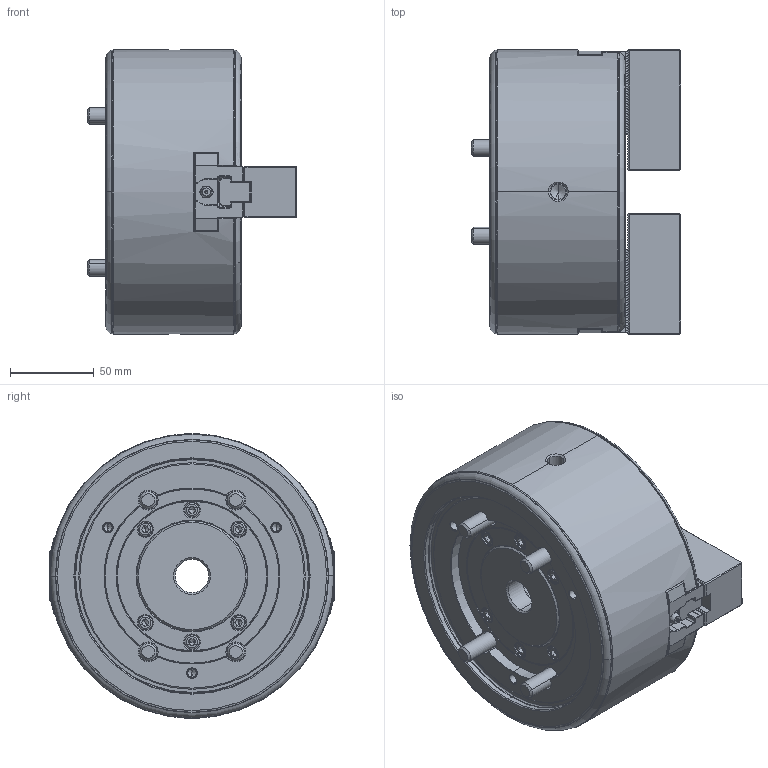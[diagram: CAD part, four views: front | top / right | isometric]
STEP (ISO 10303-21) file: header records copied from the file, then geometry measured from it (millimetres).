
FILE_DESCRIPTION (( 'STEP AP214' ), '1' );
FILE_NAME ('DEV-BRT06-HCL.STEP', '2024-10-02T05:10:50', ( '' ), ( '' ), 'SwSTEP 2.0', 'SolidWorks 2022', '' );
FILE_SCHEMA (( 'AUTOMOTIVE_DESIGN' ));
Length unit declared in the file: millimetre
Products named in the file (9): Bアナツキ M10×80; BRT06-Nishi07 ドローナット(ｸﾘｯｸｽﾄｯﾌﾟ穴変更)_ﾃﾞﾌｫﾙﾄ(外観用); BR06-Nishi08 Tナット-Plus_61P447483-改正2 BB206 Tﾅｯﾄ-分割; Part8^DEV-BRT06-クミタテ; DEV-BRT06-HCL; Bアナツキ M10×25; 61P806148-0(BBT206) カバー_BBT206-ﾃﾞﾌｫﾙﾄ; BRT06-61P314547-4(SJ06A1T) ソフトジョー_SJ06A1T-ﾃﾞﾌｫﾙﾄ-Design; Bアナツキボタン M5×10_デフォルト
Assembly tree (19 placements, depth 2):
  DEV-BRT06-HCL
    BRT06-Nishi07 ドローナット(ｸﾘｯｸｽﾄｯﾌﾟ穴変更)_ﾃﾞﾌｫﾙﾄ(外観用)
    BRT06-61P314547-4(SJ06A1T) ソフトジョー_SJ06A1T-ﾃﾞﾌｫﾙﾄ-Design  x2
    BR06-Nishi08 Tナット-Plus_61P447483-改正2 BB206 Tﾅｯﾄ-分割  x2
    61P806148-0(BBT206) カバー_BBT206-ﾃﾞﾌｫﾙﾄ
    Bアナツキ M10×25  x4
    Bアナツキボタン M5×10_デフォルト  x4
    Bアナツキ M10×80  x4
    Part8^DEV-BRT06-クミタテ
Bounding box: 125.2 x 170 x 170 mm (x, y, z)
Volume: 1672415.7 mm3; surface area: 222053.4 mm2
Topology: 19 solids, 29 shells, 2877 faces, 7645 edges, 4897 vertices
Faces by surface type: plane 1951, cylinder 413, cone 292, bspline 126, torus 87, sphere 8
Entity records: 74903 total; most frequent: CARTESIAN_POINT 18543, ORIENTED_EDGE 11978, DIRECTION 10992, EDGE_CURVE 5989, LINE 4370, VECTOR 4370, VERTEX_POINT 3876, AXIS2_PLACEMENT_3D 3311
